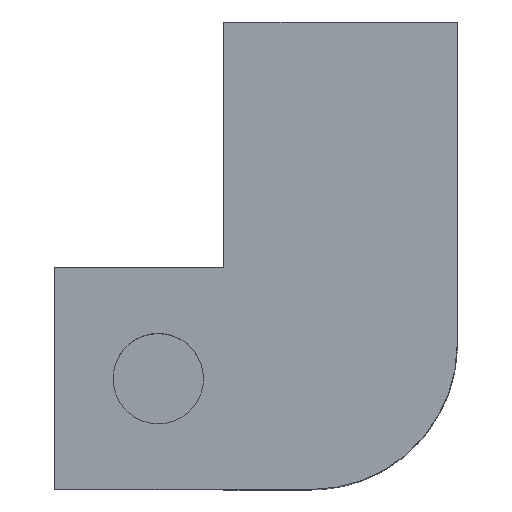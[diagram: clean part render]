
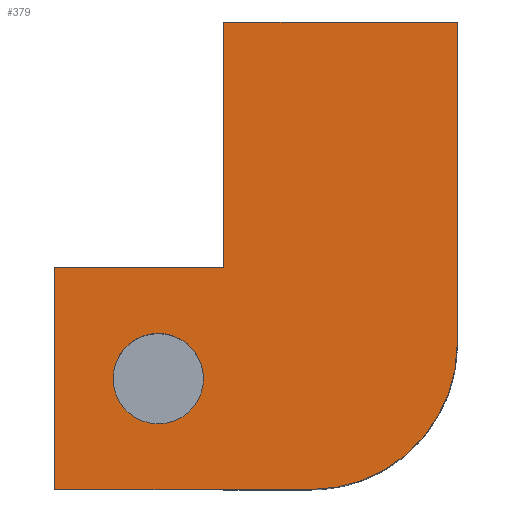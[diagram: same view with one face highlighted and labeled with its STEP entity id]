
A CAD part, top view. The second image highlights one B-rep face of the part: STEP entity #379.
In plain terms, the highlighted planar face has unit normal (0, 0, 1).
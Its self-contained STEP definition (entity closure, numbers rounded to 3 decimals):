
#24=FACE_BOUND('',#84,.T.);
#36=PLANE('',#430);
#57=FACE_OUTER_BOUND('',#83,.T.);
#83=EDGE_LOOP('',(#338,#339,#340,#341,#342,#343,#344));
#84=EDGE_LOOP('',(#345));
#88=LINE('',#553,#120);
#103=LINE('',#640,#135);
#104=LINE('',#643,#136);
#113=LINE('',#663,#145);
#116=LINE('',#668,#148);
#117=LINE('',#670,#149);
#120=VECTOR('',#446,10.);
#135=VECTOR('',#505,10.);
#136=VECTOR('',#508,10.);
#145=VECTOR('',#527,10.);
#148=VECTOR('',#534,10.);
#149=VECTOR('',#537,10.);
#150=CIRCLE('',#396,1.55);
#164=CIRCLE('',#424,5.);
#165=VERTEX_POINT('',#542);
#167=VERTEX_POINT('',#549);
#169=VERTEX_POINT('',#552);
#190=VERTEX_POINT('',#636);
#191=VERTEX_POINT('',#638);
#192=VERTEX_POINT('',#642);
#193=VERTEX_POINT('',#647);
#198=VERTEX_POINT('',#661);
#199=EDGE_CURVE('',#165,#165,#150,.T.);
#203=EDGE_CURVE('',#169,#167,#88,.T.);
#233=EDGE_CURVE('',#190,#191,#103,.T.);
#234=EDGE_CURVE('',#190,#192,#104,.T.);
#237=EDGE_CURVE('',#192,#193,#164,.T.);
#245=EDGE_CURVE('',#198,#191,#113,.T.);
#248=EDGE_CURVE('',#198,#169,#116,.T.);
#249=EDGE_CURVE('',#193,#167,#117,.T.);
#338=ORIENTED_EDGE('',*,*,#203,.T.);
#339=ORIENTED_EDGE('',*,*,#249,.F.);
#340=ORIENTED_EDGE('',*,*,#237,.F.);
#341=ORIENTED_EDGE('',*,*,#234,.F.);
#342=ORIENTED_EDGE('',*,*,#233,.T.);
#343=ORIENTED_EDGE('',*,*,#245,.F.);
#344=ORIENTED_EDGE('',*,*,#248,.T.);
#345=ORIENTED_EDGE('',*,*,#199,.T.);
#379=ADVANCED_FACE('',(#57,#24),#36,.T.);
#396=AXIS2_PLACEMENT_3D('',#543,#436,#437);
#424=AXIS2_PLACEMENT_3D('',#648,#513,#514);
#430=AXIS2_PLACEMENT_3D('',#669,#535,#536);
#436=DIRECTION('center_axis',(0.,0.,
-1.));
#437=DIRECTION('ref_axis',(1.,0.,0.));
#446=DIRECTION('',(0.,-1.,0.));
#505=DIRECTION('',(-1.,0.,0.));
#508=DIRECTION('',(0.,-1.,0.));
#513=DIRECTION('center_axis',(0.,0.,
-1.));
#514=DIRECTION('ref_axis',(0.707,-0.707,0.));
#527=DIRECTION('',(0.,1.,0.));
#534=DIRECTION('',(-1.,0.,0.));
#535=DIRECTION('center_axis',(0.,0.,
1.));
#536=DIRECTION('ref_axis',(0.,-1.,0.));
#537=DIRECTION('',(-1.,0.,0.));
#542=CARTESIAN_POINT('',(37.426,-302.598,4.848));
#543=CARTESIAN_POINT('Origin',(38.976,-302.598,4.848));
#549=CARTESIAN_POINT('',(35.426,-306.4,4.848));
#552=CARTESIAN_POINT('',(35.426,-298.8,4.848));
#553=CARTESIAN_POINT('',(35.426,-295.4,4.848));
#636=CARTESIAN_POINT('',(49.226,-290.373,4.848));
#638=CARTESIAN_POINT('',(41.226,-290.373,4.848));
#640=CARTESIAN_POINT('',(45.226,-290.373,4.848));
#642=CARTESIAN_POINT('',(49.226,-301.4,4.848));
#643=CARTESIAN_POINT('',(49.226,-307.6,4.848));
#647=CARTESIAN_POINT('',(44.226,-306.4,4.848));
#648=CARTESIAN_POINT('Origin',(44.226,-301.4,4.848));
#661=CARTESIAN_POINT('',(41.226,-298.8,4.848));
#663=CARTESIAN_POINT('',(41.226,-307.6,4.848));
#668=CARTESIAN_POINT('',(41.226,-298.8,4.848));
#669=CARTESIAN_POINT('Origin',(41.226,-287.6,4.848));
#670=CARTESIAN_POINT('',(41.226,-306.4,4.848));
